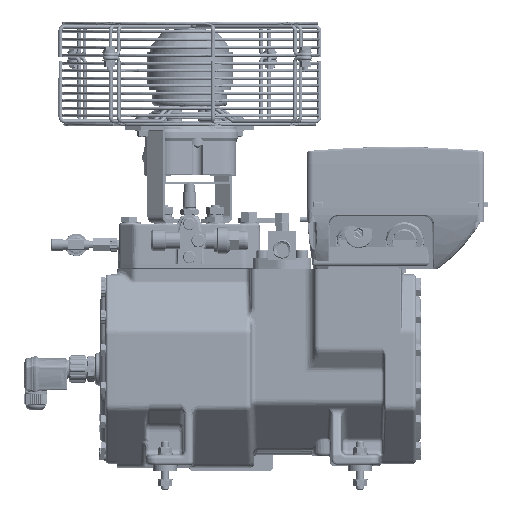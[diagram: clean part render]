
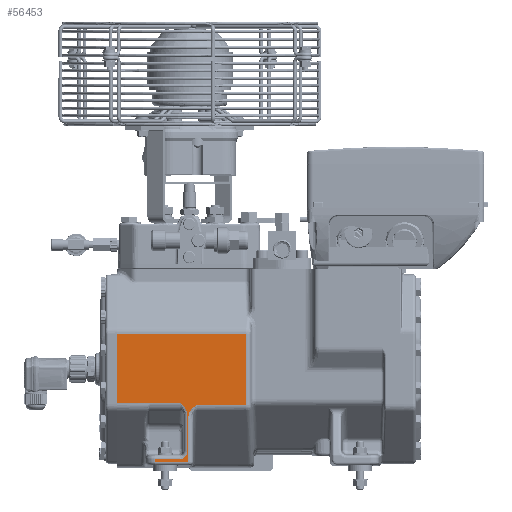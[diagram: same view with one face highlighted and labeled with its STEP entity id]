
A CAD part, front view. The second image highlights one B-rep face of the part: STEP entity #56453.
In plain terms, the highlighted planar face has unit normal (0, -1, 0).
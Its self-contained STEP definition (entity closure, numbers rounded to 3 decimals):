
#1128=ELLIPSE('',#185079,9.065,8.);
#1129=ELLIPSE('',#185080,8.006,8.);
#1130=ELLIPSE('',#185081,12.732,9.);
#8080=B_SPLINE_CURVE_WITH_KNOTS('',3,(#342341,#342342,#342343,#342344,#342345,
#342346),.UNSPECIFIED.,.F.,.F.,(4,2,4),(0.,0.5,1.),.UNSPECIFIED.);
#8081=B_SPLINE_CURVE_WITH_KNOTS('',3,(#342364,#342365,#342366,#342367,#342368,
#342369,#342370,#342371,#342372,#342373,#342374,#342375,#342376),
 .UNSPECIFIED.,.F.,.F.,(4,3,3,3,4),(0.,0.497,0.747,
0.996,1.),.UNSPECIFIED.);
#16018=LINE('',#341205,#25510);
#16251=LINE('',#342339,#25743);
#16252=LINE('',#342350,#25744);
#16253=LINE('',#342354,#25745);
#16254=LINE('',#342356,#25746);
#16255=LINE('',#342358,#25747);
#16256=LINE('',#342360,#25748);
#16257=LINE('',#342378,#25749);
#16258=LINE('',#342380,#25750);
#16259=LINE('',#342382,#25751);
#25510=VECTOR('',#215629,1.);
#25743=VECTOR('',#216292,1.);
#25744=VECTOR('',#216295,1.);
#25745=VECTOR('',#216298,1.);
#25746=VECTOR('',#216299,1.);
#25747=VECTOR('',#216300,1.);
#25748=VECTOR('',#216301,1.);
#25749=VECTOR('',#216304,1.);
#25750=VECTOR('',#216305,1.);
#25751=VECTOR('',#216306,1.);
#44331=FACE_OUTER_BOUND('',#76049,.T.);
#56453=ADVANCED_FACE('',(#44331),#63128,.T.);
#63128=PLANE('',#185082);
#76049=EDGE_LOOP('',(#110087,#110088,#110089,#110090,#110091,#110092,#110093,
#110094,#110095,#110096,#110097,#110098,#110099,#110100,#110101));
#110087=ORIENTED_EDGE('',*,*,#159143,.F.);
#110088=ORIENTED_EDGE('',*,*,#159566,.T.);
#110089=ORIENTED_EDGE('',*,*,#159567,.T.);
#110090=ORIENTED_EDGE('',*,*,#159568,.T.);
#110091=ORIENTED_EDGE('',*,*,#159569,.T.);
#110092=ORIENTED_EDGE('',*,*,#159570,.T.);
#110093=ORIENTED_EDGE('',*,*,#159571,.T.);
#110094=ORIENTED_EDGE('',*,*,#159572,.T.);
#110095=ORIENTED_EDGE('',*,*,#159573,.T.);
#110096=ORIENTED_EDGE('',*,*,#159574,.T.);
#110097=ORIENTED_EDGE('',*,*,#159575,.T.);
#110098=ORIENTED_EDGE('',*,*,#159576,.T.);
#110099=ORIENTED_EDGE('',*,*,#159577,.T.);
#110100=ORIENTED_EDGE('',*,*,#159578,.T.);
#110101=ORIENTED_EDGE('',*,*,#159579,.T.);
#138689=VERTEX_POINT('',#341204);
#138690=VERTEX_POINT('',#341206);
#139071=VERTEX_POINT('',#342340);
#139072=VERTEX_POINT('',#342347);
#139073=VERTEX_POINT('',#342349);
#139074=VERTEX_POINT('',#342351);
#139075=VERTEX_POINT('',#342353);
#139076=VERTEX_POINT('',#342355);
#139077=VERTEX_POINT('',#342357);
#139078=VERTEX_POINT('',#342359);
#139079=VERTEX_POINT('',#342361);
#139080=VERTEX_POINT('',#342363);
#139081=VERTEX_POINT('',#342377);
#139082=VERTEX_POINT('',#342379);
#139083=VERTEX_POINT('',#342381);
#159143=EDGE_CURVE('',#138689,#138690,#16018,.T.);
#159566=EDGE_CURVE('',#138689,#139071,#16251,.T.);
#159567=EDGE_CURVE('',#139071,#139072,#8080,.T.);
#159568=EDGE_CURVE('',#139072,#139073,#1128,.T.);
#159569=EDGE_CURVE('',#139073,#139074,#16252,.T.);
#159570=EDGE_CURVE('',#139074,#139075,#1129,.T.);
#159571=EDGE_CURVE('',#139075,#139076,#16253,.T.);
#159572=EDGE_CURVE('',#139076,#139077,#16254,.T.);
#159573=EDGE_CURVE('',#139077,#139078,#16255,.T.);
#159574=EDGE_CURVE('',#139078,#139079,#16256,.T.);
#159575=EDGE_CURVE('',#139079,#139080,#1130,.T.);
#159576=EDGE_CURVE('',#139080,#139081,#8081,.T.);
#159577=EDGE_CURVE('',#139081,#139082,#16257,.T.);
#159578=EDGE_CURVE('',#139082,#139083,#16258,.T.);
#159579=EDGE_CURVE('',#139083,#138690,#16259,.T.);
#185079=AXIS2_PLACEMENT_3D('',#342348,#216293,#216294);
#185080=AXIS2_PLACEMENT_3D('',#342352,#216296,#216297);
#185081=AXIS2_PLACEMENT_3D('',#342362,#216302,#216303);
#185082=AXIS2_PLACEMENT_3D('',#342383,#216307,#216308);
#215629=DIRECTION('',(0.,0.,1.));
#216292=DIRECTION('',(1.,0.,0.));
#216293=DIRECTION('',(0.,1.,0.));
#216294=DIRECTION('',(0.066,0.,0.998));
#216295=DIRECTION('',(0.,0.,-1.));
#216296=DIRECTION('',(0.,1.,0.));
#216297=DIRECTION('',(-0.894,0.,0.447));
#216298=DIRECTION('',(-1.,0.,0.));
#216299=DIRECTION('',(0.,0.,-1.));
#216300=DIRECTION('',(1.,0.,0.));
#216301=DIRECTION('',(0.,0.,1.));
#216302=DIRECTION('',(0.,1.,0.));
#216303=DIRECTION('',(-0.035,0.,-0.999));
#216304=DIRECTION('',(1.,0.,0.));
#216305=DIRECTION('',(0.,0.,1.));
#216306=DIRECTION('',(-1.,0.,0.));
#216307=DIRECTION('',(0.,-1.,0.));
#216308=DIRECTION('',(0.,0.,-1.));
#341204=CARTESIAN_POINT('',(-162.661,-101.,-36.991));
#341205=CARTESIAN_POINT('',(-162.661,-101.,-102.));
#341206=CARTESIAN_POINT('',(-162.661,-101.,36.693));
#342339=CARTESIAN_POINT('',(-91.411,-101.,-36.991));
#342340=CARTESIAN_POINT('',(-95.524,-101.,-36.991));
#342341=CARTESIAN_POINT('',(-95.524,-101.,-36.991));
#342342=CARTESIAN_POINT('',(-93.691,-101.,-38.579));
#342343=CARTESIAN_POINT('',(-91.876,-101.,-40.207));
#342344=CARTESIAN_POINT('',(-89.024,-101.,-44.089));
#342345=CARTESIAN_POINT('',(-87.992,-101.,-46.374));
#342346=CARTESIAN_POINT('',(-87.823,-101.,-48.799));
#342347=CARTESIAN_POINT('',(-87.823,-101.,-48.799));
#342348=CARTESIAN_POINT('',(-95.803,-101.,-49.657));
#342349=CARTESIAN_POINT('',(-87.798,-101.,-49.509));
#342350=CARTESIAN_POINT('',(-87.798,-101.,-89.002));
#342351=CARTESIAN_POINT('',(-87.798,-101.,-88.934));
#342352=CARTESIAN_POINT('',(-95.803,-101.,-88.93));
#342353=CARTESIAN_POINT('',(-95.798,-101.,-96.931));
#342354=CARTESIAN_POINT('',(-91.411,-101.,-96.931));
#342355=CARTESIAN_POINT('',(-122.004,-101.,-96.931));
#342356=CARTESIAN_POINT('',(-122.004,-101.,-103.));
#342357=CARTESIAN_POINT('',(-122.004,-101.,-100.586));
#342358=CARTESIAN_POINT('',(-91.411,-101.,-100.586));
#342359=CARTESIAN_POINT('',(-86.839,-101.,-100.586));
#342360=CARTESIAN_POINT('',(-86.839,-101.,-102.));
#342361=CARTESIAN_POINT('',(-86.839,-101.,-53.807));
#342362=CARTESIAN_POINT('',(-77.833,-101.,-53.492));
#342363=CARTESIAN_POINT('',(-82.015,-101.,-42.369));
#342364=CARTESIAN_POINT('',(-82.015,-101.,-42.369));
#342365=CARTESIAN_POINT('',(-81.318,-101.,-41.829));
#342366=CARTESIAN_POINT('',(-80.582,-101.,-41.339));
#342367=CARTESIAN_POINT('',(-79.831,-101.,-40.878));
#342368=CARTESIAN_POINT('',(-79.454,-101.,-40.645));
#342369=CARTESIAN_POINT('',(-79.072,-101.,-40.42));
#342370=CARTESIAN_POINT('',(-78.688,-101.,-40.197));
#342371=CARTESIAN_POINT('',(-78.305,-101.,-39.974));
#342372=CARTESIAN_POINT('',(-77.92,-101.,-39.753));
#342373=CARTESIAN_POINT('',(-77.535,-101.,-39.531));
#342374=CARTESIAN_POINT('',(-77.53,-101.,-39.528));
#342375=CARTESIAN_POINT('',(-77.524,-101.,-39.525));
#342376=CARTESIAN_POINT('',(-77.519,-101.,-39.522));
#342377=CARTESIAN_POINT('',(-77.519,-101.,-39.522));
#342378=CARTESIAN_POINT('',(-91.411,-101.,-39.522));
#342379=CARTESIAN_POINT('',(-24.989,-101.,-39.522));
#342380=CARTESIAN_POINT('',(-24.989,-101.,36.693));
#342381=CARTESIAN_POINT('',(-24.989,-101.,36.693));
#342382=CARTESIAN_POINT('',(-91.411,-101.,36.693));
#342383=CARTESIAN_POINT('',(-91.411,-101.,-102.));
